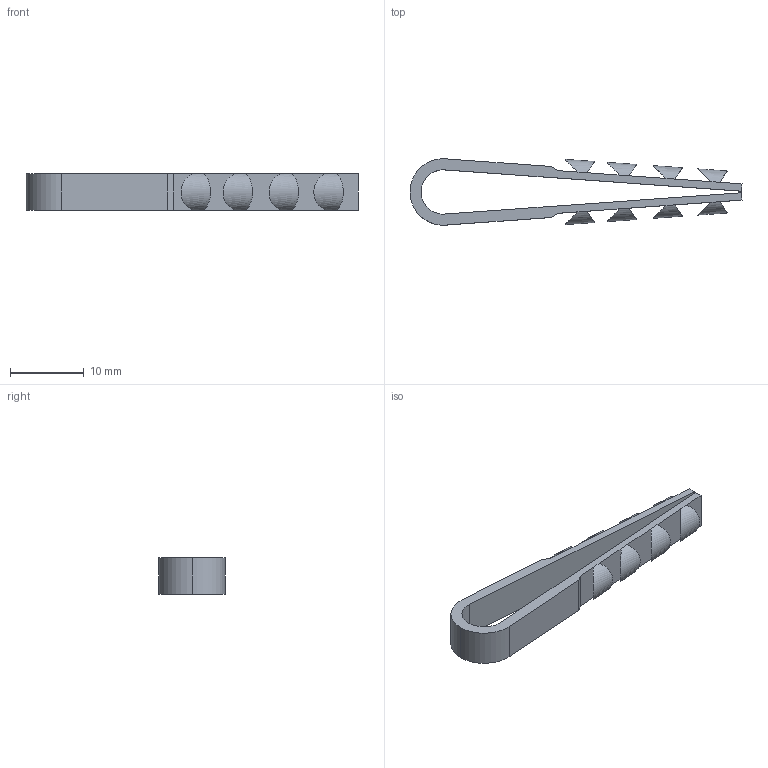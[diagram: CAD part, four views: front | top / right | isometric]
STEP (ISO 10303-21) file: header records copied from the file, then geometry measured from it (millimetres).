
FILE_DESCRIPTION (( 'STEP AP214' ), '1' );
FILE_NAME ('278340 OptiKit CT-D-N-5-8.STEP', '2020-05-25T10:37:11', ( '' ), ( '' ), 'SwSTEP 2.0', 'SolidWorks 2018', '' );
FILE_SCHEMA (( 'AUTOMOTIVE_DESIGN' ));
Length unit declared in the file: millimetre
Products named in the file (1): 278340 OptiKit CT-D-N-5-8
Bounding box: 45 x 8.98 x 5 mm (x, y, z)
Volume: 681.4 mm3; surface area: 1402.7 mm2
Topology: 1 solids, 1 shells, 48 faces, 106 edges, 60 vertices
Faces by surface type: plane 36, bspline 8, cylinder 4
Entity records: 1728 total; most frequent: CARTESIAN_POINT 703, ORIENTED_EDGE 212, DIRECTION 180, EDGE_CURVE 106, LINE 82, VECTOR 82, VERTEX_POINT 60, AXIS2_PLACEMENT_3D 49
